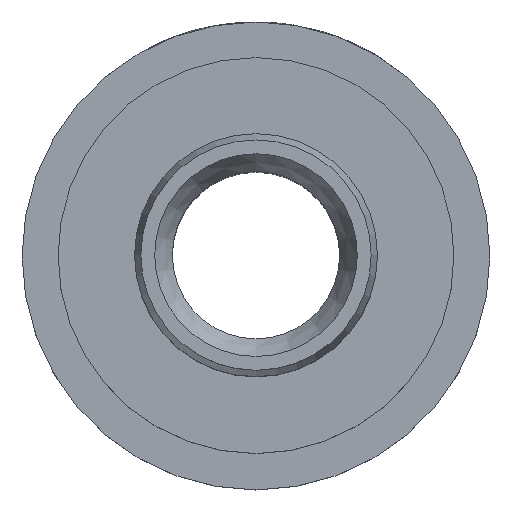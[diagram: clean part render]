
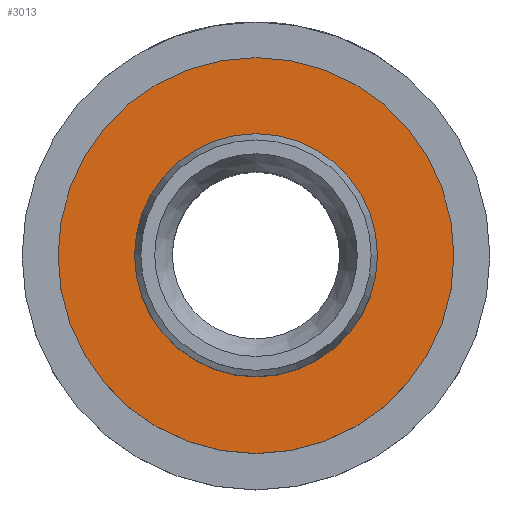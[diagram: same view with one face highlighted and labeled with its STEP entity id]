
A CAD part, top view. The second image highlights one B-rep face of the part: STEP entity #3013.
In plain terms, the highlighted planar face has unit normal (0, 0, 1).
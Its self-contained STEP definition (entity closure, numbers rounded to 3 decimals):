
#56=FACE_BOUND('',#523,.T.);
#174=PLANE('',#3289);
#334=FACE_OUTER_BOUND('',#522,.T.);
#522=EDGE_LOOP('',(#2790,#2791));
#523=EDGE_LOOP('',(#2792,#2793));
#803=CIRCLE('',#3287,6.4);
#804=CIRCLE('',#3288,6.4);
#805=CIRCLE('',#3290,11.);
#806=CIRCLE('',#3291,11.);
#1452=VERTEX_POINT('',#6714);
#1453=VERTEX_POINT('',#6715);
#1454=VERTEX_POINT('',#6720);
#1455=VERTEX_POINT('',#6721);
#1900=EDGE_CURVE('',#1452,#1453,#803,.T.);
#1901=EDGE_CURVE('',#1453,#1452,#804,.T.);
#1903=EDGE_CURVE('',#1454,#1455,#805,.T.);
#1904=EDGE_CURVE('',#1455,#1454,#806,.T.);
#2790=ORIENTED_EDGE('',*,*,#1903,.F.);
#2791=ORIENTED_EDGE('',*,*,#1904,.F.);
#2792=ORIENTED_EDGE('',*,*,#1900,.T.);
#2793=ORIENTED_EDGE('',*,*,#1901,.T.);
#3013=ADVANCED_FACE('',(#334,#56),#174,.T.);
#3287=AXIS2_PLACEMENT_3D('',#6716,#3967,#3968);
#3288=AXIS2_PLACEMENT_3D('',#6717,#3969,#3970);
#3289=AXIS2_PLACEMENT_3D('',#6719,#3972,#3973);
#3290=AXIS2_PLACEMENT_3D('',#6722,#3974,#3975);
#3291=AXIS2_PLACEMENT_3D('',#6723,#3976,#3977);
#3967=DIRECTION('center_axis',(0.,0.,-1.));
#3968=DIRECTION('ref_axis',(1.,0.,0.));
#3969=DIRECTION('center_axis',(0.,0.,-1.));
#3970=DIRECTION('ref_axis',(1.,0.,0.));
#3972=DIRECTION('center_axis',(0.,0.,1.));
#3973=DIRECTION('ref_axis',(1.,0.,0.));
#3974=DIRECTION('center_axis',(0.,0.,-1.));
#3975=DIRECTION('ref_axis',(1.,0.,0.));
#3976=DIRECTION('center_axis',(0.,0.,-1.));
#3977=DIRECTION('ref_axis',(1.,0.,0.));
#6714=CARTESIAN_POINT('',(0.,6.4,32.));
#6715=CARTESIAN_POINT('',(0.,-6.4,32.));
#6716=CARTESIAN_POINT('Origin',(0.,0.,32.));
#6717=CARTESIAN_POINT('Origin',(0.,0.,32.));
#6719=CARTESIAN_POINT('Origin',(0.,11.,32.));
#6720=CARTESIAN_POINT('',(0.,11.,32.));
#6721=CARTESIAN_POINT('',(0.,-11.,32.));
#6722=CARTESIAN_POINT('Origin',(0.,0.,32.));
#6723=CARTESIAN_POINT('Origin',(0.,0.,32.));
